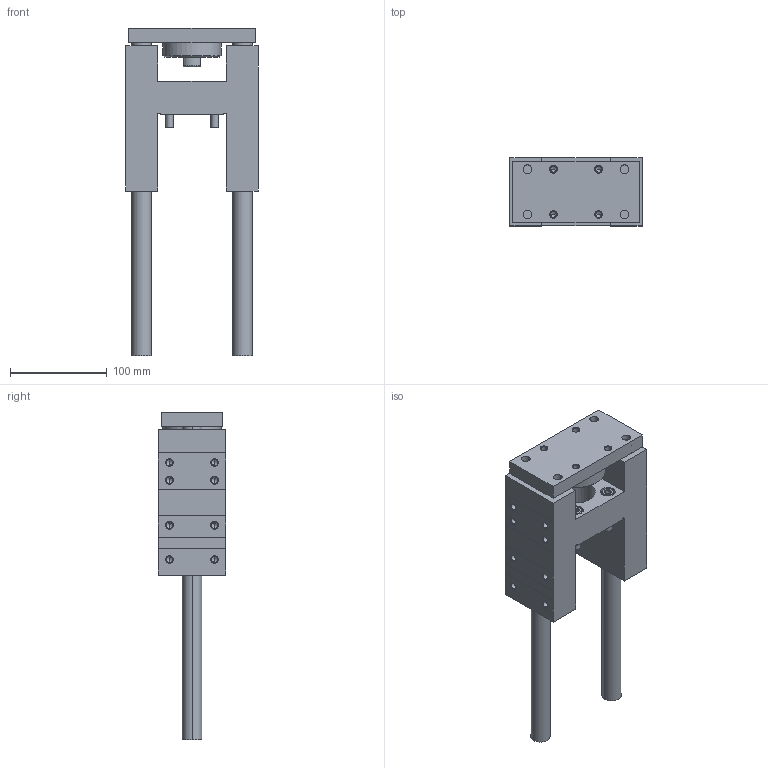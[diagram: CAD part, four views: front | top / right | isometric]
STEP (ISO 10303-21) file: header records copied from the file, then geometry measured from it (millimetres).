
FILE_DESCRIPTION (( 'STEP AP203' ), '1' );
FILE_NAME ('GB50-150.STEP', '2020-04-24T13:14:10', ( '' ), ( '' ), 'SwSTEP 2.0', 'SolidWorks 2019', '' );
FILE_SCHEMA (( 'CONFIG_CONTROL_DESIGN' ));
Length unit declared in the file: millimetre
Products named in the file (1): GB50-150
Bounding box: 137 x 70 x 338 mm (x, y, z)
Volume: 1071207.1 mm3; surface area: 187334.1 mm2
Topology: 6 solids, 6 shells, 377 faces, 852 edges, 480 vertices
Faces by surface type: cone 154, plane 117, cylinder 106
Entity records: 10863 total; most frequent: CARTESIAN_POINT 2350, DIRECTION 1902, ORIENTED_EDGE 1624, EDGE_CURVE 812, AXIS2_PLACEMENT_3D 744, VERTEX_POINT 480, EDGE_LOOP 440, VECTOR 414
